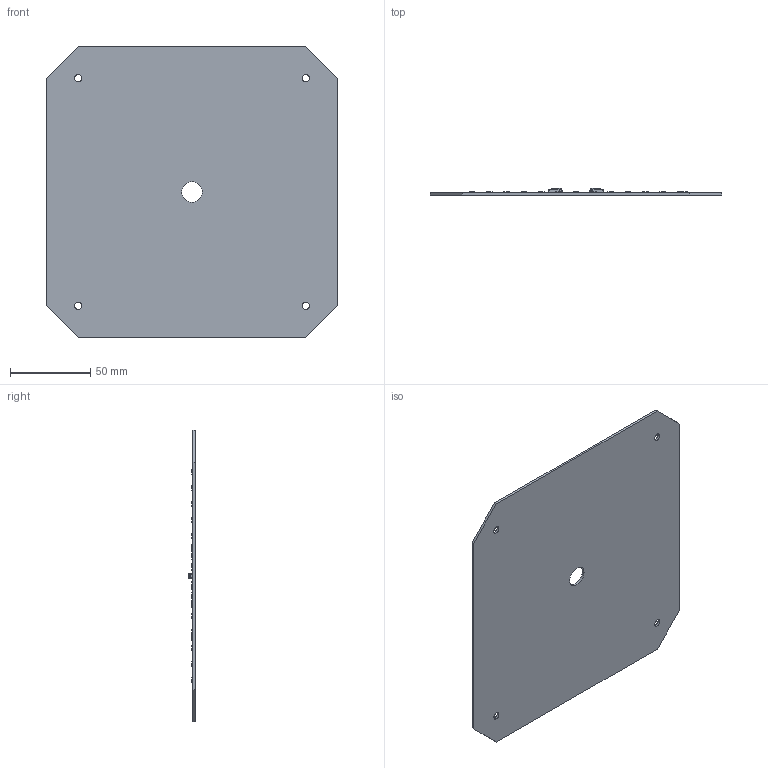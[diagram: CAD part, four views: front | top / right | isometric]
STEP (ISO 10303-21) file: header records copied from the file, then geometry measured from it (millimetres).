
FILE_DESCRIPTION (( 'STEP AP214' ), '1' );
FILE_NAME ('BXEB-SQ0182 (15-000635 revA).STEP', '2020-11-12T17:31:51', ( '' ), ( '' ), 'SwSTEP 2.0', 'SolidWorks 2020', '' );
FILE_SCHEMA (( 'AUTOMOTIVE_DESIGN' ));
Length unit declared in the file: millimetre
Products named in the file (1): BXEB-SQ0182 (15-000635 revA)
Bounding box: 182 x 4.23 x 182 mm (x, y, z)
Volume: 51220.2 mm3; surface area: 67281 mm2
Topology: 3 solids, 3 shells, 1748 faces, 4374 edges, 2906 vertices
Faces by surface type: plane 1491, bspline 174, cylinder 81, sphere 2
Full cylindrical faces by diameter (mm): 0.597 x1, 1.019 x1, 1.25 x2, 1.5 x2, 2.1 x2, 3 x2, 4.5 x4, 12.7 x1
Entity records: 78815 total; most frequent: CARTESIAN_POINT 19055, ORIENTED_EDGE 8708, DIRECTION 7148, EDGE_CURVE 4354, VECTOR 3838, LINE 3838, VERTEX_POINT 2906, EDGE_LOOP 2052
